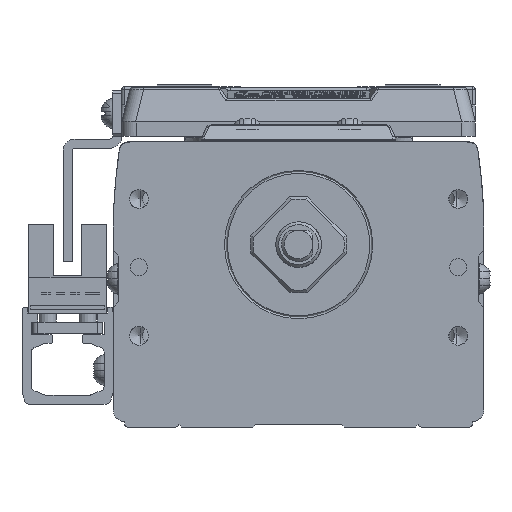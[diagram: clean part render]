
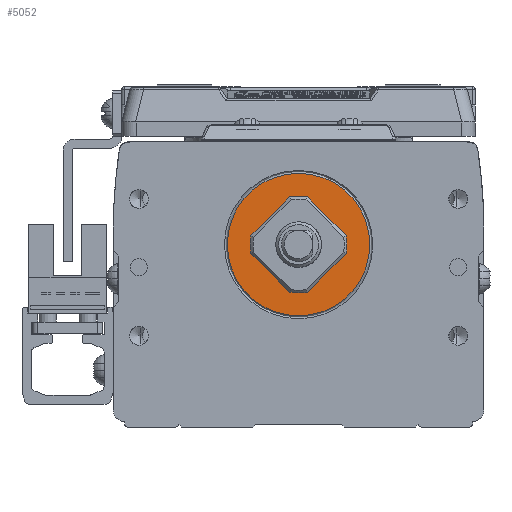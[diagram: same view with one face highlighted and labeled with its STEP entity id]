
A CAD part, left-side view. The second image highlights one B-rep face of the part: STEP entity #5052.
In plain terms, the highlighted planar face has unit normal (-1, 0, 0) as drawn and (0, 0, 1) by its records, which use the part's own axes.
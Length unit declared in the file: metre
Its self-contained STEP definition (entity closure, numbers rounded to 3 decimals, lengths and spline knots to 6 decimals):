
#5052=ADVANCED_FACE('',(#10523,#10524),#10525,.T.);
#10523=FACE_OUTER_BOUND('',#17429,.T.);
#10524=FACE_BOUND('',#17430,.T.);
#10525=PLANE('',#17431);
#17429=EDGE_LOOP('',(#32172));
#17430=EDGE_LOOP('',(#32173));
#17431=AXIS2_PLACEMENT_3D('',#32174,#32175,#32176);
#32172=ORIENTED_EDGE('',*,*,#39709,.T.);
#32173=ORIENTED_EDGE('',*,*,#43624,.F.);
#32174=CARTESIAN_POINT('',(0.000036,-0.0065,0.02));
#32175=DIRECTION('',(0.0,0.0,1.0));
#32176=DIRECTION('',(1.0,0.0,0.0));
#39709=EDGE_CURVE('',#46150,#46150,#46151,.T.);
#43624=EDGE_CURVE('',#52449,#52449,#52450,.T.);
#46150=VERTEX_POINT('',#55656);
#46151=CIRCLE('',#55657,0.0125);
#52449=VERTEX_POINT('',#64940);
#52450=CIRCLE('',#64941,0.004);
#55656=CARTESIAN_POINT('',(-0.0125,0.,0.02));
#55657=AXIS2_PLACEMENT_3D('',#69556,#69557,#69558);
#64940=CARTESIAN_POINT('',(0.004,0.0,0.02));
#64941=AXIS2_PLACEMENT_3D('',#74253,#74254,#74255);
#69556=CARTESIAN_POINT('',(0.0,0.,0.02));
#69557=DIRECTION('',(0.0,0.0,1.0));
#69558=DIRECTION('',(1.0,0.0,0.0));
#74253=CARTESIAN_POINT('',(0.0,0.0,0.02));
#74254=DIRECTION('',(0.0,0.0,1.0));
#74255=DIRECTION('',(-1.0,0.0,0.0));
